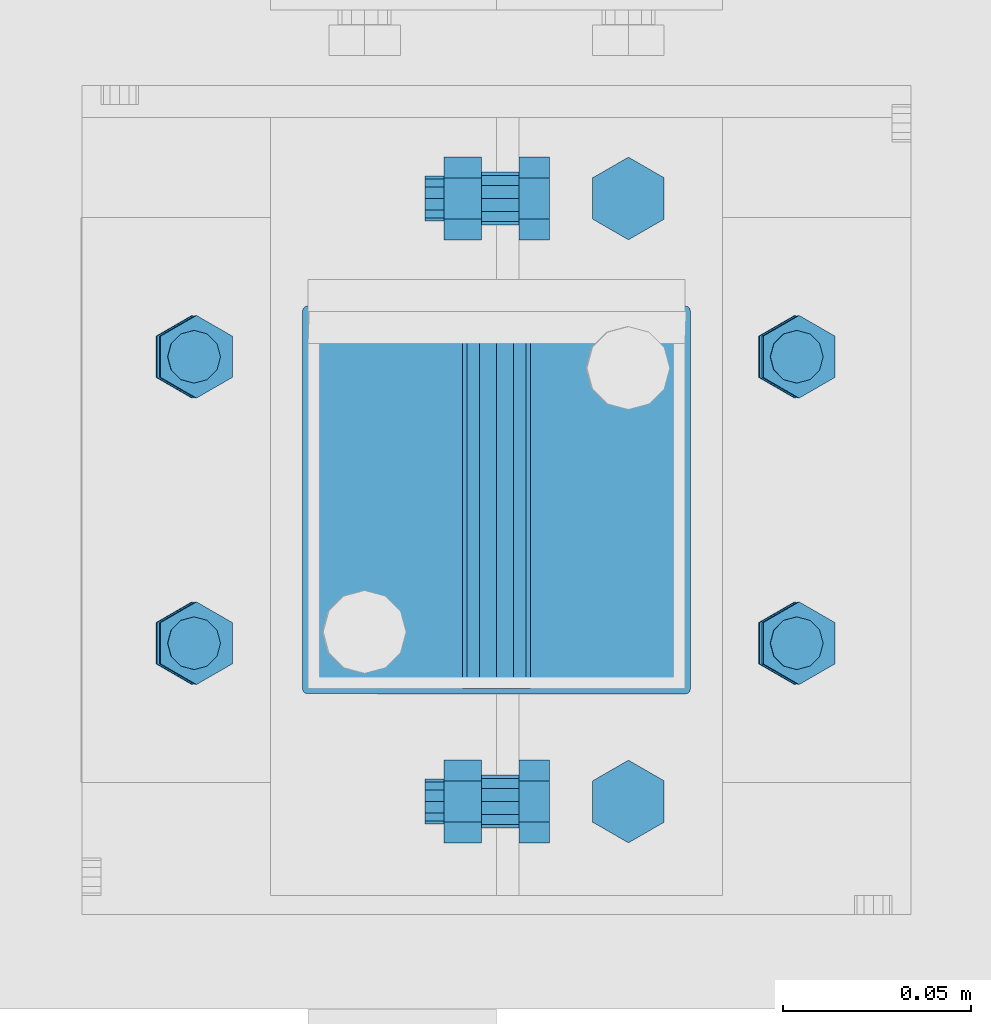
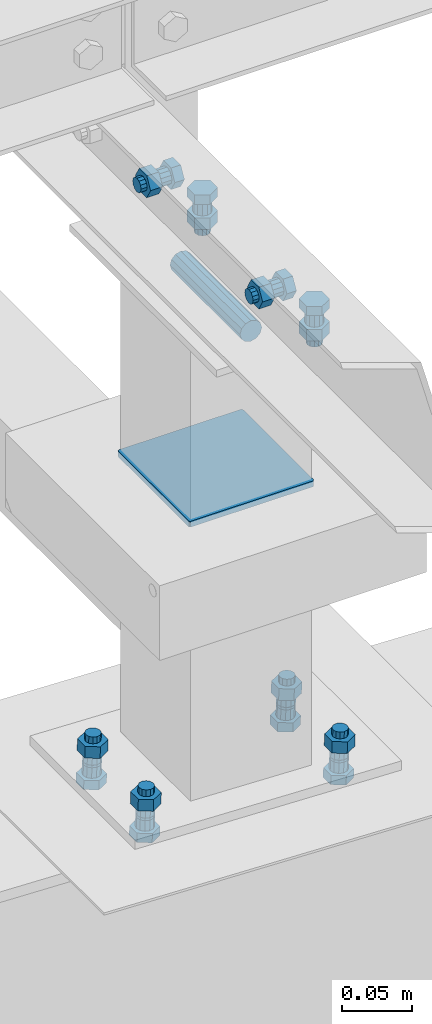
# One storey, part 10 of 3134: 6 mechanical fasteners, 3 elements without a shape of their own.
"""IFC2X3 building model written with IfcOpenShell, lengths in millimetres."""

from ifc_helpers import new_model, si_unit, frame, origin_with_axes, place, context, subcontext, project, spatial, faceted_brep, source, transform, mapped, material, type_object, element, aggregate, save


model = new_model("IFC2X3")

# Units and contexts
model_context = context("Model", 3, precision=1e-05, world=origin_with_axes())
body_context = subcontext(model_context, "Body", "Model", "MODEL_VIEW")
ifc_project = project(units=[si_unit("LENGTHUNIT", "METRE", prefix="MILLI"), si_unit("AREAUNIT", "SQUARE_METRE"), si_unit("VOLUMEUNIT", "CUBIC_METRE"), si_unit("MASSUNIT", "GRAM", prefix="KILO"), si_unit("TIMEUNIT", "SECOND"), si_unit("PLANEANGLEUNIT", "RADIAN"), si_unit("SOLIDANGLEUNIT", "STERADIAN"), si_unit("THERMODYNAMICTEMPERATUREUNIT", "DEGREE_CELSIUS"), si_unit("LUMINOUSINTENSITYUNIT", "LUMEN")], contexts=[model_context])

# Site, building, storey
site_placement = place(None, origin_with_axes())
site = spatial("IfcSite", under=ifc_project, at=site_placement, CompositionType="ELEMENT")
building_placement = place(site_placement, origin_with_axes())
building = spatial("IfcBuilding", under=site, at=building_placement, Name="Undefined", CompositionType="ELEMENT")
storey_placement = place(building_placement, origin_with_axes())
storey = spatial("IfcBuildingStorey", under=building, at=storey_placement, Name="Undefined", CompositionType="ELEMENT", Elevation=0.0)

# Assembly, mechanical fastener
assembly_1_placement = place(storey_placement, origin_with_axes())
assembly_1 = element("IfcElementAssembly", 1, at=assembly_1_placement, inside=storey, AssemblyPlace="NOTDEFINED", PredefinedType="RIGID_FRAME")
ifc_material_1 = material(Name="8.8")
mechanical_fastener_type = type_object("IfcMechanicalFastenerType", Name="Bolt assembly")
shared_shape_1 = source(origin_with_axes(), body_context, "Body", "Brep", [
    faceted_brep([(10.9696551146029, -14.0, 0.0), (5.48482755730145, -14.0, 9.5), (-5.48482755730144, -14.0, 9.5), (-10.9696551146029, -14.0, 1.34339530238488e-15), (-5.48482755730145, -14.0, -9.5), (5.48482755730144, -14.0, -9.50000000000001), (5.48482755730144, -6.0, -9.50000000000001), (-5.48482755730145, -6.0, -9.5), (-10.9696551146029, -6.0, 1.34339530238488e-15), (-5.48482755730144, -6.0, 9.5), (5.48482755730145, -6.0, 9.5), (10.9696551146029, -6.0, 0.0), (6.0, -6.0, 0.0), (5.19615242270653, -6.0, 3.00000000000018), (2.99999999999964, -6.0, 5.19615242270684), (-6.21801588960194e-13, -6.0, 6.0), (-3.00000000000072, -6.0, 5.19615242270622), (-5.19615242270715, -6.0, 2.9999999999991), (-6.0, -6.0, -1.24360317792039e-12), (-5.19615242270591, -6.0, -3.00000000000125), (-2.99999999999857, -6.0, -5.19615242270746), (1.85874342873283e-12, -6.0, -6.0), (3.00000000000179, -6.0, -5.1961524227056), (5.19615242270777, -6.0, -2.99999999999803), (5.19615242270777, 24.0, -2.99999999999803), (3.00000000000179, 24.0, -5.1961524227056), (1.85874342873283e-12, 24.0, -6.0), (-2.99999999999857, 24.0, -5.19615242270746), (-5.19615242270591, 24.0, -3.00000000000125), (-6.0, 24.0, -1.24360317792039e-12), (-5.19615242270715, 24.0, 2.9999999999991), (-3.00000000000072, 24.0, 5.19615242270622), (-6.21801588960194e-13, 24.0, 6.0), (2.99999999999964, 24.0, 5.19615242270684), (5.19615242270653, 24.0, 3.00000000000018), (6.0, 24.0, 0.0), (10.9696551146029, 6.00000000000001, 0.0), (5.48482755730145, 6.00000000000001, 9.5), (-5.48482755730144, 6.00000000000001, 9.5), (-10.9696551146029, 6.00000000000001, 1.34339530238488e-15), (-5.48482755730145, 6.00000000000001, -9.5), (5.48482755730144, 6.00000000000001, -9.50000000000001), (5.48482755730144, 16.0, -9.50000000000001), (-5.48482755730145, 16.0, -9.5), (-10.9696551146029, 16.0, 1.34339530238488e-15), (-5.48482755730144, 16.0, 9.5), (5.48482755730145, 16.0, 9.5), (10.9696551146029, 16.0, 0.0)], [[[0, 1, 2, 3, 4, 5]], [[6, 7, 8, 9, 10, 11]], [[0, 11, 10, 1]], [[1, 10, 9, 2]], [[2, 9, 8, 3]], [[3, 8, 7, 4]], [[4, 7, 6, 5]], [[5, 6, 11, 0]], [[12, 13, 14, 15, 16, 17, 18, 19, 20, 21, 22, 23]], [[24, 25, 26, 27, 28, 29, 30, 31, 32, 33, 34, 35]], [[12, 35, 34, 13]], [[13, 34, 33, 14]], [[14, 33, 32, 15]], [[15, 32, 31, 16]], [[16, 31, 30, 17]], [[17, 30, 29, 18]], [[18, 29, 28, 19]], [[19, 28, 27, 20]], [[20, 27, 26, 21]], [[21, 26, 25, 22]], [[22, 25, 24, 23]], [[23, 24, 35, 12]], [[36, 37, 38, 39, 40, 41]], [[42, 43, 44, 45, 46, 47]], [[36, 47, 46, 37]], [[37, 46, 45, 38]], [[38, 45, 44, 39]], [[39, 44, 43, 40]], [[40, 43, 42, 41]], [[41, 42, 47, 36]]]),
    faceted_brep([(7.0, -5.9, 0.0), (6.06217782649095, -5.9, 3.50000000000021), (3.49999999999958, -5.9, 6.06217782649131), (-7.25435187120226e-13, -5.9, 7.0), (-3.50000000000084, -5.9, 6.06217782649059), (-6.06217782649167, -5.9, 3.49999999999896), (-7.0, -5.9, -1.45087037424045e-12), (-6.06217782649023, -5.9, -3.50000000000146), (-3.49999999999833, -5.9, -6.06217782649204), (2.1685340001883e-12, -5.9, -7.0), (3.50000000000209, -5.9, -6.06217782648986), (6.0621778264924, -5.9, -3.4999999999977), (6.0621778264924, 0.0999999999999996, -3.4999999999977), (3.50000000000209, 0.0999999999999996, -6.06217782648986), (2.1685340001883e-12, 0.0999999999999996, -7.0), (-3.49999999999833, 0.0999999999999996, -6.06217782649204), (-6.06217782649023, 0.0999999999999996, -3.50000000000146), (-7.0, 0.0999999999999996, -1.45087037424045e-12), (-6.06217782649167, 0.0999999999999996, 3.49999999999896), (-3.50000000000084, 0.0999999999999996, 6.06217782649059), (-7.25435187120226e-13, 0.0999999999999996, 7.0), (3.49999999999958, 0.0999999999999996, 6.06217782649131), (6.06217782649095, 0.0999999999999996, 3.50000000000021), (7.0, 0.0999999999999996, 0.0), (7.0, -0.1, 0.0), (6.06217782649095, -0.1, 3.50000000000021), (3.49999999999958, -0.1, 6.06217782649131), (-7.25435187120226e-13, -0.1, 7.0), (-3.50000000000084, -0.1, 6.06217782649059), (-6.06217782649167, -0.1, 3.49999999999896), (-7.0, -0.1, -1.45087037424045e-12), (-6.06217782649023, -0.1, -3.50000000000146), (-3.49999999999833, -0.1, -6.06217782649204), (2.1685340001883e-12, -0.1, -7.0), (3.50000000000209, -0.1, -6.06217782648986), (6.0621778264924, -0.1, -3.4999999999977), (6.0621778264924, 6.00000000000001, -3.4999999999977), (3.50000000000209, 6.00000000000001, -6.06217782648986), (2.1685340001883e-12, 6.00000000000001, -7.0), (-3.49999999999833, 6.00000000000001, -6.06217782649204), (-6.06217782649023, 6.00000000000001, -3.50000000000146), (-7.0, 6.00000000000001, -1.45087037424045e-12), (-6.06217782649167, 6.00000000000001, 3.49999999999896), (-3.50000000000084, 6.00000000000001, 6.06217782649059), (-7.25435187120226e-13, 6.00000000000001, 7.0), (3.49999999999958, 6.00000000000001, 6.06217782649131), (6.06217782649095, 6.00000000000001, 3.50000000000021), (7.0, 6.00000000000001, 0.0)], [[[0, 1, 2, 3, 4, 5, 6, 7, 8, 9, 10, 11]], [[12, 13, 14, 15, 16, 17, 18, 19, 20, 21, 22, 23]], [[0, 23, 22, 1]], [[1, 22, 21, 2]], [[2, 21, 20, 3]], [[3, 20, 19, 4]], [[4, 19, 18, 5]], [[5, 18, 17, 6]], [[6, 17, 16, 7]], [[7, 16, 15, 8]], [[8, 15, 14, 9]], [[9, 14, 13, 10]], [[10, 13, 12, 11]], [[11, 12, 23, 0]], [[24, 25, 26, 27, 28, 29, 30, 31, 32, 33, 34, 35]], [[36, 37, 38, 39, 40, 41, 42, 43, 44, 45, 46, 47]], [[24, 47, 46, 25]], [[25, 46, 45, 26]], [[26, 45, 44, 27]], [[27, 44, 43, 28]], [[28, 43, 42, 29]], [[29, 42, 41, 30]], [[30, 41, 40, 31]], [[31, 40, 39, 32]], [[32, 39, 38, 33]], [[33, 38, 37, 34]], [[34, 37, 36, 35]], [[35, 36, 47, 24]]]),
])
mechanical_fastener_1_placement = place(assembly_1_placement, frame((5726.67, 10850.0, 4265.0), z_axis=(-1.0, 0.0, 0.0), x_axis=(0.0, 1.0, 0.0)))
mechanical_fastener_1 = element("IfcMechanicalFastener", 2, at=mechanical_fastener_1_placement, type_object=mechanical_fastener_type, material=ifc_material_1, Name="Bolt assembly", NominalDiameter=12.0, NominalLength=30.0, context=body_context, shape_type="MappedRepresentation", body=[
    mapped(shared_shape_1, transform((0.0, 0.0, 0.0))),
    mapped(shared_shape_1, transform((160.0, 0.0, 0.0))),
])

assembly_2_placement = place(storey_placement, origin_with_axes())
assembly_2 = element("IfcElementAssembly", 3, at=assembly_2_placement, inside=storey, AssemblyPlace="NOTDEFINED", PredefinedType="RIGID_FRAME")
shared_shape_2 = source(origin_with_axes(), body_context, "Body", "Brep", [
    faceted_brep([(10.9696551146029, -14.0, 0.0), (5.48482755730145, -14.0, 9.5), (-5.48482755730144, -14.0, 9.5), (-10.9696551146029, -14.0, 1.34339530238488e-15), (-5.48482755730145, -14.0, -9.5), (5.48482755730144, -14.0, -9.50000000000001), (5.48482755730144, -6.0, -9.50000000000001), (-5.48482755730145, -6.0, -9.5), (-10.9696551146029, -6.0, 1.34339530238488e-15), (-5.48482755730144, -6.0, 9.5), (5.48482755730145, -6.0, 9.5), (10.9696551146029, -6.0, 0.0), (6.0, -6.0, 0.0), (5.19615242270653, -6.0, 3.00000000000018), (2.99999999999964, -6.0, 5.19615242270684), (-6.21801588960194e-13, -6.0, 6.0), (-3.00000000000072, -6.0, 5.19615242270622), (-5.19615242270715, -6.0, 2.9999999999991), (-6.0, -6.0, -1.24360317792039e-12), (-5.19615242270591, -6.0, -3.00000000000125), (-2.99999999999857, -6.0, -5.19615242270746), (1.85874342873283e-12, -6.0, -6.0), (3.00000000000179, -6.0, -5.1961524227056), (5.19615242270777, -6.0, -2.99999999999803), (5.19615242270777, 19.0, -2.99999999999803), (3.00000000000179, 19.0, -5.1961524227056), (1.85874342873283e-12, 19.0, -6.0), (-2.99999999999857, 19.0, -5.19615242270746), (-5.19615242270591, 19.0, -3.00000000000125), (-6.0, 19.0, -1.24360317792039e-12), (-5.19615242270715, 19.0, 2.9999999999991), (-3.00000000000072, 19.0, 5.19615242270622), (-6.21801588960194e-13, 19.0, 6.0), (2.99999999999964, 19.0, 5.19615242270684), (5.19615242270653, 19.0, 3.00000000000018), (6.0, 19.0, 0.0), (10.9696551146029, 4.00000000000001, 0.0), (5.48482755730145, 4.00000000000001, 9.5), (-5.48482755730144, 4.00000000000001, 9.5), (-10.9696551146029, 4.00000000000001, 1.34339530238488e-15), (-5.48482755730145, 4.00000000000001, -9.5), (5.48482755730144, 4.00000000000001, -9.50000000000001), (5.48482755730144, 14.0, -9.50000000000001), (-5.48482755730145, 14.0, -9.5), (-10.9696551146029, 14.0, 1.34339530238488e-15), (-5.48482755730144, 14.0, 9.5), (5.48482755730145, 14.0, 9.5), (10.9696551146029, 14.0, 0.0)], [[[0, 1, 2, 3, 4, 5]], [[6, 7, 8, 9, 10, 11]], [[0, 11, 10, 1]], [[1, 10, 9, 2]], [[2, 9, 8, 3]], [[3, 8, 7, 4]], [[4, 7, 6, 5]], [[5, 6, 11, 0]], [[12, 13, 14, 15, 16, 17, 18, 19, 20, 21, 22, 23]], [[24, 25, 26, 27, 28, 29, 30, 31, 32, 33, 34, 35]], [[12, 35, 34, 13]], [[13, 34, 33, 14]], [[14, 33, 32, 15]], [[15, 32, 31, 16]], [[16, 31, 30, 17]], [[17, 30, 29, 18]], [[18, 29, 28, 19]], [[19, 28, 27, 20]], [[20, 27, 26, 21]], [[21, 26, 25, 22]], [[22, 25, 24, 23]], [[23, 24, 35, 12]], [[36, 37, 38, 39, 40, 41]], [[42, 43, 44, 45, 46, 47]], [[36, 47, 46, 37]], [[37, 46, 45, 38]], [[38, 45, 44, 39]], [[39, 44, 43, 40]], [[40, 43, 42, 41]], [[41, 42, 47, 36]]]),
    faceted_brep([(7.0, -0.1, 0.0), (6.06217782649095, -0.1, 3.50000000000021), (3.49999999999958, -0.1, 6.06217782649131), (-7.25435187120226e-13, -0.1, 7.0), (-3.50000000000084, -0.1, 6.06217782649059), (-6.06217782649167, -0.1, 3.49999999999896), (-7.0, -0.1, -1.45087037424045e-12), (-6.06217782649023, -0.1, -3.50000000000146), (-3.49999999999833, -0.1, -6.06217782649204), (2.1685340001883e-12, -0.1, -7.0), (3.50000000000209, -0.1, -6.06217782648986), (6.0621778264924, -0.1, -3.4999999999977), (6.0621778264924, 4.00000000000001, -3.4999999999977), (3.50000000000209, 4.00000000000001, -6.06217782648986), (2.1685340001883e-12, 4.00000000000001, -7.0), (-3.49999999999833, 4.00000000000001, -6.06217782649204), (-6.06217782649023, 4.00000000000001, -3.50000000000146), (-7.0, 4.00000000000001, -1.45087037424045e-12), (-6.06217782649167, 4.00000000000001, 3.49999999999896), (-3.50000000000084, 4.00000000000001, 6.06217782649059), (-7.25435187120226e-13, 4.00000000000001, 7.0), (3.49999999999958, 4.00000000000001, 6.06217782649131), (6.06217782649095, 4.00000000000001, 3.50000000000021), (7.0, 4.00000000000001, 0.0), (7.0, -5.9, 0.0), (6.06217782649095, -5.9, 3.50000000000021), (3.49999999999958, -5.9, 6.06217782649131), (-7.25435187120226e-13, -5.9, 7.0), (-3.50000000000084, -5.9, 6.06217782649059), (-6.06217782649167, -5.9, 3.49999999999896), (-7.0, -5.9, -1.45087037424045e-12), (-6.06217782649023, -5.9, -3.50000000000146), (-3.49999999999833, -5.9, -6.06217782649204), (2.1685340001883e-12, -5.9, -7.0), (3.50000000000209, -5.9, -6.06217782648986), (6.0621778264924, -5.9, -3.4999999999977), (6.0621778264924, 0.0999999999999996, -3.4999999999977), (3.50000000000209, 0.0999999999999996, -6.06217782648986), (2.1685340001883e-12, 0.0999999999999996, -7.0), (-3.49999999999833, 0.0999999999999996, -6.06217782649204), (-6.06217782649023, 0.0999999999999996, -3.50000000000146), (-7.0, 0.0999999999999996, -1.45087037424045e-12), (-6.06217782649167, 0.0999999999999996, 3.49999999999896), (-3.50000000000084, 0.0999999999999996, 6.06217782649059), (-7.25435187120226e-13, 0.0999999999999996, 7.0), (3.49999999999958, 0.0999999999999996, 6.06217782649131), (6.06217782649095, 0.0999999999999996, 3.50000000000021), (7.0, 0.0999999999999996, 0.0)], [[[0, 1, 2, 3, 4, 5, 6, 7, 8, 9, 10, 11]], [[12, 13, 14, 15, 16, 17, 18, 19, 20, 21, 22, 23]], [[0, 23, 22, 1]], [[1, 22, 21, 2]], [[2, 21, 20, 3]], [[3, 20, 19, 4]], [[4, 19, 18, 5]], [[5, 18, 17, 6]], [[6, 17, 16, 7]], [[7, 16, 15, 8]], [[8, 15, 14, 9]], [[9, 14, 13, 10]], [[10, 13, 12, 11]], [[11, 12, 23, 0]], [[24, 25, 26, 27, 28, 29, 30, 31, 32, 33, 34, 35]], [[36, 37, 38, 39, 40, 41, 42, 43, 44, 45, 46, 47]], [[24, 47, 46, 25]], [[25, 46, 45, 26]], [[26, 45, 44, 27]], [[27, 44, 43, 28]], [[28, 43, 42, 29]], [[29, 42, 41, 30]], [[30, 41, 40, 31]], [[31, 40, 39, 32]], [[32, 39, 38, 33]], [[33, 38, 37, 34]], [[34, 37, 36, 35]], [[35, 36, 47, 24]]]),
])
mechanical_fastener_2_placement = place(assembly_2_placement, frame((5691.67, 10850.0, 4300.0), z_axis=(0.0, 0.0, 1.0), x_axis=(0.0, 1.0, 0.0)))
mechanical_fastener_2 = element("IfcMechanicalFastener", 4, at=mechanical_fastener_2_placement, type_object=mechanical_fastener_type, material=ifc_material_1, Name="Bolt assembly", NominalDiameter=12.0, NominalLength=25.0, context=body_context, shape_type="MappedRepresentation", body=[
    mapped(shared_shape_2, transform((0.0, 0.0, 0.0))),
    mapped(shared_shape_2, transform((160.0, 0.0, 0.0))),
])
aggregate(assembly_2, [mechanical_fastener_2])

# Mechanical fastener
shared_shape_3 = source(origin_with_axes(), body_context, "Body", "Brep", [
    faceted_brep([(10.9696551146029, -4.18280906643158, 0.0), (5.48482755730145, -4.18280906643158, 9.5), (-5.48482755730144, -4.18280906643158, 9.5), (-10.9696551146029, -4.18280906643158, 1.34339530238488e-15), (-5.48482755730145, -4.18280906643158, -9.5), (5.48482755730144, -4.18280906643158, -9.50000000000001), (5.48482755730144, 3.81719093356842, -9.50000000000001), (-5.48482755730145, 3.81719093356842, -9.5), (-10.9696551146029, 3.81719093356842, 1.34339530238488e-15), (-5.48482755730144, 3.81719093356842, 9.5), (5.48482755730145, 3.81719093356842, 9.5), (10.9696551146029, 3.81719093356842, 0.0), (6.0, 3.81719093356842, 0.0), (5.19615242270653, 3.81719093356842, 3.00000000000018), (2.99999999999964, 3.81719093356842, 5.19615242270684), (-6.21801588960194e-13, 3.81719093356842, 6.0), (-3.00000000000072, 3.81719093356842, 5.19615242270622), (-5.19615242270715, 3.81719093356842, 2.9999999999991), (-6.0, 3.81719093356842, -1.24360317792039e-12), (-5.19615242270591, 3.81719093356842, -3.00000000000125), (-2.99999999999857, 3.81719093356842, -5.19615242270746), (1.85874342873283e-12, 3.81719093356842, -6.0), (3.00000000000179, 3.81719093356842, -5.1961524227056), (5.19615242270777, 3.81719093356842, -2.99999999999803), (5.19615242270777, 38.8171909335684, -2.99999999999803), (3.00000000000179, 38.8171909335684, -5.1961524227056), (1.85874342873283e-12, 38.8171909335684, -6.0), (-2.99999999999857, 38.8171909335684, -5.19615242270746), (-5.19615242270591, 38.8171909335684, -3.00000000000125), (-6.0, 38.8171909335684, -1.24360317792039e-12), (-5.19615242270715, 38.8171909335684, 2.9999999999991), (-3.00000000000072, 38.8171909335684, 5.19615242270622), (-6.21801588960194e-13, 38.8171909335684, 6.0), (2.99999999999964, 38.8171909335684, 5.19615242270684), (5.19615242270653, 38.8171909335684, 3.00000000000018), (6.0, 38.8171909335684, 0.0), (10.9696551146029, 23.0139082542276, 0.0), (5.48482755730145, 23.0139082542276, 9.5), (-5.48482755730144, 23.0139082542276, 9.5), (-10.9696551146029, 23.0139082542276, 1.34339530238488e-15), (-5.48482755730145, 23.0139082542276, -9.5), (5.48482755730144, 23.0139082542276, -9.50000000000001), (5.48482755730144, 33.0139082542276, -9.50000000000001), (-5.48482755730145, 33.0139082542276, -9.5), (-10.9696551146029, 33.0139082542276, 1.34339530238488e-15), (-5.48482755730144, 33.0139082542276, 9.5), (5.48482755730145, 33.0139082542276, 9.5), (10.9696551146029, 33.0139082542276, 0.0)], [[[0, 1, 2, 3, 4, 5]], [[6, 7, 8, 9, 10, 11]], [[0, 11, 10, 1]], [[1, 10, 9, 2]], [[2, 9, 8, 3]], [[3, 8, 7, 4]], [[4, 7, 6, 5]], [[5, 6, 11, 0]], [[12, 13, 14, 15, 16, 17, 18, 19, 20, 21, 22, 23]], [[24, 25, 26, 27, 28, 29, 30, 31, 32, 33, 34, 35]], [[12, 35, 34, 13]], [[13, 34, 33, 14]], [[14, 33, 32, 15]], [[15, 32, 31, 16]], [[16, 31, 30, 17]], [[17, 30, 29, 18]], [[18, 29, 28, 19]], [[19, 28, 27, 20]], [[20, 27, 26, 21]], [[21, 26, 25, 22]], [[22, 25, 24, 23]], [[23, 24, 35, 12]], [[36, 37, 38, 39, 40, 41]], [[42, 43, 44, 45, 46, 47]], [[36, 47, 46, 37]], [[37, 46, 45, 38]], [[38, 45, 44, 39]], [[39, 44, 43, 40]], [[40, 43, 42, 41]], [[41, 42, 47, 36]]]),
    faceted_brep([(7.0, 3.91719093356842, 0.0), (6.06217782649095, 3.91719093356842, 3.50000000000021), (3.49999999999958, 3.91719093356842, 6.06217782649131), (-7.25435187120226e-13, 3.91719093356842, 7.0), (-3.50000000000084, 3.91719093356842, 6.06217782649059), (-6.06217782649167, 3.91719093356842, 3.49999999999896), (-7.0, 3.91719093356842, -1.45087037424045e-12), (-6.06217782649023, 3.91719093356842, -3.50000000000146), (-3.49999999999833, 3.91719093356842, -6.06217782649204), (2.1685340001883e-12, 3.91719093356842, -7.0), (3.50000000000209, 3.91719093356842, -6.06217782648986), (6.0621778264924, 3.91719093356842, -3.4999999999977), (6.0621778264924, 13.1171907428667, -3.4999999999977), (3.50000000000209, 13.1171907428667, -6.06217782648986), (2.1685340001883e-12, 13.1171907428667, -7.0), (-3.49999999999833, 13.1171907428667, -6.06217782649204), (-6.06217782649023, 13.1171907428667, -3.50000000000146), (-7.0, 13.1171907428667, -1.45087037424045e-12), (-6.06217782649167, 13.1171907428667, 3.49999999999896), (-3.50000000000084, 13.1171907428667, 6.06217782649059), (-7.25435187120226e-13, 13.1171907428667, 7.0), (3.49999999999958, 13.1171907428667, 6.06217782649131), (6.06217782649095, 13.1171907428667, 3.50000000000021), (7.0, 13.1171907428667, 0.0), (7.0, 14.9139082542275, 0.0), (6.06217782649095, 14.9139082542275, 3.50000000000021), (3.49999999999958, 14.9139082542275, 6.06217782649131), (-7.25435187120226e-13, 14.9139082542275, 7.0), (-3.50000000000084, 14.9139082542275, 6.06217782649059), (-6.06217782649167, 14.9139082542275, 3.49999999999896), (-7.0, 14.9139082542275, -1.45087037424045e-12), (-6.06217782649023, 14.9139082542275, -3.50000000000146), (-3.49999999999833, 14.9139082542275, -6.06217782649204), (2.1685340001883e-12, 14.9139082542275, -7.0), (3.50000000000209, 14.9139082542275, -6.06217782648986), (6.0621778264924, 14.9139082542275, -3.4999999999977), (6.0621778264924, 23.0139082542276, -3.4999999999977), (3.50000000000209, 23.0139082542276, -6.06217782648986), (2.1685340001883e-12, 23.0139082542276, -7.0), (-3.49999999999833, 23.0139082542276, -6.06217782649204), (-6.06217782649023, 23.0139082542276, -3.50000000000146), (-7.0, 23.0139082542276, -1.45087037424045e-12), (-6.06217782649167, 23.0139082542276, 3.49999999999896), (-3.50000000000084, 23.0139082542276, 6.06217782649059), (-7.25435187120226e-13, 23.0139082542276, 7.0), (3.49999999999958, 23.0139082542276, 6.06217782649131), (6.06217782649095, 23.0139082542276, 3.50000000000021), (7.0, 23.0139082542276, 0.0)], [[[0, 1, 2, 3, 4, 5, 6, 7, 8, 9, 10, 11]], [[12, 13, 14, 15, 16, 17, 18, 19, 20, 21, 22, 23]], [[0, 23, 22, 1]], [[1, 22, 21, 2]], [[2, 21, 20, 3]], [[3, 20, 19, 4]], [[4, 19, 18, 5]], [[5, 18, 17, 6]], [[6, 17, 16, 7]], [[7, 16, 15, 8]], [[8, 15, 14, 9]], [[9, 14, 13, 10]], [[10, 13, 12, 11]], [[11, 12, 23, 0]], [[24, 25, 26, 27, 28, 29, 30, 31, 32, 33, 34, 35]], [[36, 37, 38, 39, 40, 41, 42, 43, 44, 45, 46, 47]], [[24, 47, 46, 25]], [[25, 46, 45, 26]], [[26, 45, 44, 27]], [[27, 44, 43, 28]], [[28, 43, 42, 29]], [[29, 42, 41, 30]], [[30, 41, 40, 31]], [[31, 40, 39, 32]], [[32, 39, 38, 33]], [[33, 38, 37, 34]], [[34, 37, 36, 35]], [[35, 36, 47, 24]]]),
])
mechanical_fastener_3_placement = place(assembly_1_placement, frame((5690.86475070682, 10967.9999999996, 3827.79222028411), z_axis=(-0.999387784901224, 0.0, 0.0349865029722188), x_axis=(0.0, -1.0, 0.0)))
mechanical_fastener_3 = element("IfcMechanicalFastener", 5, at=mechanical_fastener_3_placement, type_object=mechanical_fastener_type, material=ifc_material_1, Name="Bolt assembly", NominalDiameter=12.0, NominalLength=35.0, context=body_context, shape_type="MappedRepresentation", body=[
    mapped(shared_shape_3, transform((0.0, -5.32963895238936e-10, -79.9999999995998))),
    mapped(shared_shape_3, transform((76.0, -5.32963895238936e-10, -79.9999999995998))),
    mapped(shared_shape_3, transform((0.0, 5.3114490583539e-10, 79.9999999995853))),
    mapped(shared_shape_3, transform((76.0, 5.3114490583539e-10, 79.9999999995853))),
])

# Assembly, mechanical fastener
assembly_3_placement = place(storey_placement, origin_with_axes())
assembly_3 = element("IfcElementAssembly", 6, at=assembly_3_placement, inside=storey, AssemblyPlace="NOTDEFINED", PredefinedType="RIGID_FRAME")
shared_shape_4 = source(origin_with_axes(), body_context, "Body", "Brep", [
    faceted_brep([(7.0, 13.0000253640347, 0.0), (6.06217782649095, 13.0000253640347, 3.50000000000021), (3.49999999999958, 13.0000253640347, 6.06217782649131), (-7.25435187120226e-13, 13.0000253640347, 7.0), (-3.50000000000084, 13.0000253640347, 6.06217782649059), (-6.06217782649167, 13.0000253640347, 3.49999999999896), (-7.0, 13.0000253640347, -1.45087037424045e-12), (-6.06217782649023, 13.0000253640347, -3.50000000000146), (-3.49999999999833, 13.0000253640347, -6.06217782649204), (2.1685340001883e-12, 13.0000253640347, -7.0), (3.50000000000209, 13.0000253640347, -6.06217782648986), (6.0621778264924, 13.0000253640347, -3.4999999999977), (6.0621778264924, 15.0999999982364, -3.4999999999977), (3.50000000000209, 15.0999999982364, -6.06217782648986), (2.1685340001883e-12, 15.0999999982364, -7.0), (-3.49999999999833, 15.0999999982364, -6.06217782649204), (-6.06217782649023, 15.0999999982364, -3.50000000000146), (-7.0, 15.0999999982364, -1.45087037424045e-12), (-6.06217782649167, 15.0999999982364, 3.49999999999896), (-3.50000000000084, 15.0999999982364, 6.06217782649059), (-7.25435187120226e-13, 15.0999999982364, 7.0), (3.49999999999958, 15.0999999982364, 6.06217782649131), (6.06217782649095, 15.0999999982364, 3.50000000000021), (7.0, 15.0999999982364, 0.0)], [[[0, 1, 2, 3, 4, 5, 6, 7, 8, 9, 10, 11]], [[12, 13, 14, 15, 16, 17, 18, 19, 20, 21, 22, 23]], [[0, 23, 22, 1]], [[1, 22, 21, 2]], [[2, 21, 20, 3]], [[3, 20, 19, 4]], [[4, 19, 18, 5]], [[5, 18, 17, 6]], [[6, 17, 16, 7]], [[7, 16, 15, 8]], [[8, 15, 14, 9]], [[9, 14, 13, 10]], [[10, 13, 12, 11]], [[11, 12, 23, 0]]]),
])
mechanical_fastener_4_placement = place(assembly_3_placement, frame((5690.86475070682, 10967.9999999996, 3827.79222028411), z_axis=(-0.999387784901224, 0.0, 0.0349865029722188), x_axis=(0.0, -1.0, 0.0)))
mechanical_fastener_4 = element("IfcMechanicalFastener", 7, at=mechanical_fastener_4_placement, type_object=mechanical_fastener_type, material=ifc_material_1, Name="Bolt assembly", NominalDiameter=12.0, NominalLength=2.0, context=body_context, shape_type="MappedRepresentation", body=[
    mapped(shared_shape_4, transform((0.0, -5.32963895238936e-10, -79.9999999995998))),
    mapped(shared_shape_4, transform((76.0, -5.32963895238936e-10, -79.9999999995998))),
    mapped(shared_shape_4, transform((0.0, 5.3114490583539e-10, 79.9999999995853))),
    mapped(shared_shape_4, transform((76.0, 5.3114490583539e-10, 79.9999999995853))),
])
aggregate(assembly_3, [mechanical_fastener_4])

# Mechanical fastener
shared_shape_5 = source(origin_with_axes(), body_context, "Body", "Brep", [
    faceted_brep([(9.0, -50.0, 0.0), (7.79422863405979, -50.0, 4.50000000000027), (4.49999999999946, -50.0, 7.79422863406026), (-9.3270238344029e-13, -50.0, 9.0), (-4.50000000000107, -50.0, 7.79422863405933), (-7.79422863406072, -50.0, 4.49999999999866), (-9.0, -50.0, -1.86540476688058e-12), (-7.79422863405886, -50.0, -4.50000000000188), (-4.49999999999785, -50.0, -7.79422863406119), (2.78811514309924e-12, -50.0, -9.0), (4.50000000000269, -50.0, -7.7942286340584), (7.79422863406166, -50.0, -4.49999999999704), (7.79422863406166, 50.1, -4.49999999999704), (4.50000000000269, 50.1, -7.7942286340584), (2.78811514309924e-12, 50.1, -9.0), (-4.49999999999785, 50.1, -7.79422863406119), (-7.79422863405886, 50.1, -4.50000000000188), (-9.0, 50.1, -1.86540476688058e-12), (-7.79422863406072, 50.1, 4.49999999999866), (-4.50000000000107, 50.1, 7.79422863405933), (-9.3270238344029e-13, 50.1, 9.0), (4.49999999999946, 50.1, 7.79422863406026), (7.79422863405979, 50.1, 4.50000000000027), (9.0, 50.1, 0.0)], [[[0, 1, 2, 3, 4, 5, 6, 7, 8, 9, 10, 11]], [[12, 13, 14, 15, 16, 17, 18, 19, 20, 21, 22, 23]], [[0, 23, 22, 1]], [[1, 22, 21, 2]], [[2, 21, 20, 3]], [[3, 20, 19, 4]], [[4, 19, 18, 5]], [[5, 18, 17, 6]], [[6, 17, 16, 7]], [[7, 16, 15, 8]], [[8, 15, 14, 9]], [[9, 14, 13, 10]], [[10, 13, 12, 11]], [[11, 12, 23, 0]]]),
])
mechanical_fastener_5_placement = place(assembly_1_placement, frame((5691.67, 10930.0, 4245.0), z_axis=(-1.0, 0.0, 0.0), x_axis=(0.0, 0.0, 1.0)))
mechanical_fastener_5 = element("IfcMechanicalFastener", 8, at=mechanical_fastener_5_placement, type_object=mechanical_fastener_type, material=ifc_material_1, Name="Bolt assembly", NominalDiameter=16.0, NominalLength=100.0, context=body_context, shape_type="MappedRepresentation", body=[
    mapped(shared_shape_5, transform((0.0, 0.0, 0.0))),
])

ifc_material_2 = material(Name="6.8")
shared_shape_6 = source(origin_with_axes(), body_context, "Body", "Brep", [
    faceted_brep([(51.5, 1.36424205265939e-12, 50.0), (51.3858192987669, 1.36424205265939e-12, 50.5740251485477), (51.0606601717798, 1.36424205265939e-12, 51.0606601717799), (50.5740251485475, 1.36424205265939e-12, 51.385819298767), (-50.0000000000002, 1.36424205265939e-12, 51.5), (-50.7500000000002, 1.36424205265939e-12, 51.2990381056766), (-51.2990381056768, 1.36424205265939e-12, 50.7499999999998), (-51.5, 1.36424205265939e-12, 49.9999999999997), (-51.5, 1.36424205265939e-12, -50.0000000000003), (-51.2990381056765, 1.36424205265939e-12, -50.7500000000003), (-50.7499999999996, 1.36424205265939e-12, -51.2990381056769), (-49.9999999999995, 1.36424205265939e-12, -51.5), (50.0000000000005, 1.36424205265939e-12, -51.5), (50.7500000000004, 1.36424205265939e-12, -51.2990381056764), (51.2990381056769, 1.36424205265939e-12, -50.7499999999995), (51.5, 1.36424205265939e-12, -49.9999999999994), (51.5, 5.10000000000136, -49.9999999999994), (51.2990381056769, 5.10000000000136, -50.7499999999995), (50.7500000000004, 5.10000000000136, -51.2990381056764), (50.0000000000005, 5.10000000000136, -51.5), (-49.9999999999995, 5.10000000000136, -51.5), (-50.7499999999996, 5.10000000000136, -51.2990381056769), (-51.2990381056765, 5.10000000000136, -50.7500000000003), (-51.5, 5.10000000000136, -50.0000000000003), (-51.5, 5.10000000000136, 49.9999999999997), (-51.2990381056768, 5.10000000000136, 50.7499999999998), (-50.7500000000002, 5.10000000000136, 51.2990381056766), (-50.0000000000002, 5.10000000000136, 51.5), (50.5740251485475, 5.10000000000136, 51.385819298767), (51.0606601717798, 5.10000000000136, 51.0606601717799), (51.3858192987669, 5.10000000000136, 50.5740251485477), (51.5, 5.10000000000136, 50.0)], [[[0, 1, 2, 3, 4, 5, 6, 7, 8, 9, 10, 11, 12, 13, 14, 15]], [[16, 17, 18, 19, 20, 21, 22, 23, 24, 25, 26, 27, 28, 29, 30, 31]], [[0, 31, 30, 1]], [[1, 30, 29, 2]], [[2, 29, 28, 3]], [[3, 28, 27, 4]], [[4, 27, 26, 5]], [[5, 26, 25, 6]], [[6, 25, 24, 7]], [[7, 24, 23, 8]], [[8, 23, 22, 9]], [[9, 22, 21, 10]], [[10, 21, 20, 11]], [[11, 20, 19, 12]], [[12, 19, 18, 13]], [[13, 18, 17, 14]], [[14, 17, 16, 15]], [[15, 16, 31, 0]]]),
])
mechanical_fastener_6_placement = place(assembly_1_placement, frame((5691.66156415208, 10930.0, 4097.5922136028), z_axis=(0.0, -1.0, 0.0), x_axis=(-1.0, 0.0, 0.0)))
mechanical_fastener_6 = element("IfcMechanicalFastener", 9, at=mechanical_fastener_6_placement, type_object=mechanical_fastener_type, material=ifc_material_2, Name="Bolt assembly", NominalDiameter=10.0, NominalLength=5.0, context=body_context, shape_type="MappedRepresentation", body=[
    mapped(shared_shape_6, transform((0.0, 0.0, 0.0))),
])

aggregate(assembly_1, [mechanical_fastener_3, mechanical_fastener_6, mechanical_fastener_5, mechanical_fastener_1])

save(model, "model.ifc")
